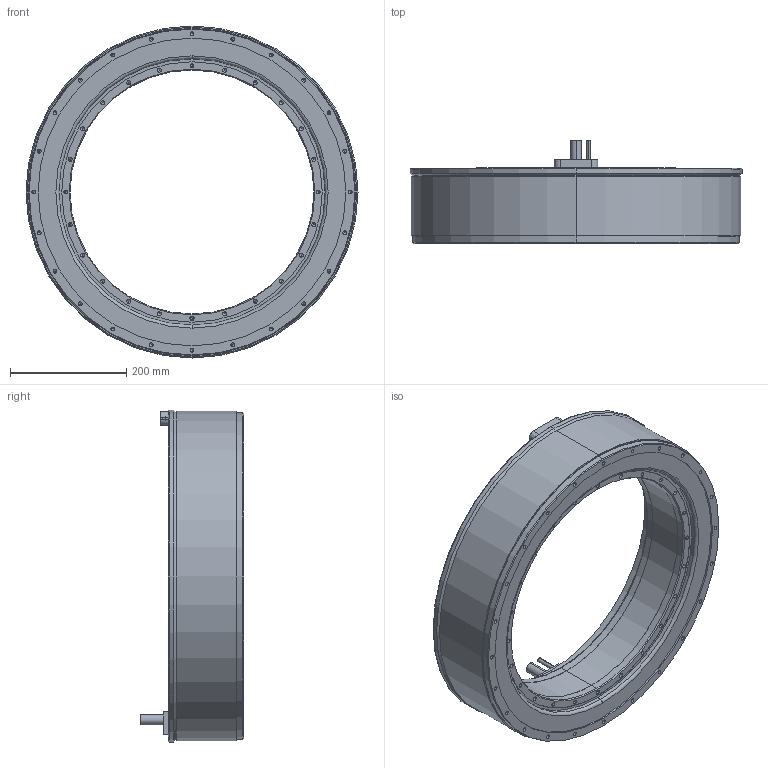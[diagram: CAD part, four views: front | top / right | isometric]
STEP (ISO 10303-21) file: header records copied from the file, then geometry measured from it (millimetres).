
FILE_DESCRIPTION (( 'STEP AP203' ), '1' );
FILE_NAME ('TM-2-G9-SD0(J0).STEP', '2023-06-06T03:38:45', ( '' ), ( '' ), 'SwSTEP 2.0', 'SolidWorks 2015', '' );
FILE_SCHEMA (( 'CONFIG_CONTROL_DESIGN' ));
Length unit declared in the file: millimetre
Products named in the file (3): TM-2-G9-SD0(J0); TM-2-G9-SD0(J0)_Stator; TM-2-G9(J0)_Rotor
Assembly tree (2 placements, depth 2):
  TM-2-G9-SD0(J0)
    TM-2-G9-SD0(J0)_Stator
    TM-2-G9(J0)_Rotor
Bounding box: 572 x 179 x 572 mm (x, y, z)
Volume: 13518532 mm3; surface area: 953746.8 mm2
Topology: 2 solids, 2 shells, 553 faces, 1336 edges, 717 vertices
Faces by surface type: cylinder 253, cone 214, plane 74, torus 12
Entity records: 14977 total; most frequent: DIRECTION 2810, CARTESIAN_POINT 2417, ORIENTED_EDGE 2284, EDGE_CURVE 1142, AXIS2_PLACEMENT_3D 1110, VERTEX_POINT 717, EDGE_LOOP 681, VECTOR 590
